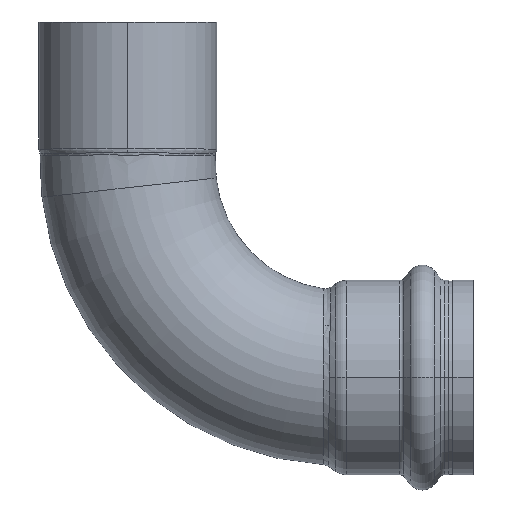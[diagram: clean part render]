
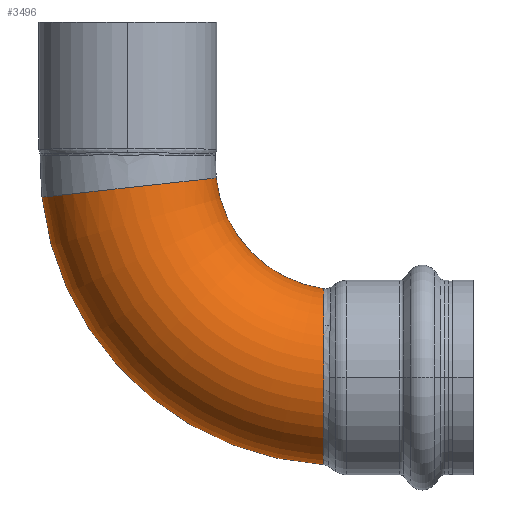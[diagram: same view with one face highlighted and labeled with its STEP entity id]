
A CAD part, top view. The second image highlights one B-rep face of the part: STEP entity #3496.
In plain terms, the highlighted toroidal (fillet/blend) face has major radius 42 mm and minor radius 17.25 mm.
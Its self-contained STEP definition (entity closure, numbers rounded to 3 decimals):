
#51 = AXIS2_PLACEMENT_3D ( 'NONE', #2447, #2440, #2423 ) ;
#109 = CARTESIAN_POINT ( 'NONE',  ( 38.582, 13.703, 10.763 ) ) ;
#117 = DIRECTION ( 'NONE',  ( -0.11, 0.994, 0. ) ) ;
#133 = CIRCLE ( 'NONE', #2634, 17.25 ) ;
#260 = CARTESIAN_POINT ( 'NONE',  ( 38.526, -12.992, 11.227 ) ) ;
#272 = CARTESIAN_POINT ( 'NONE',  ( 38.547, -2.523, 17.049 ) ) ;
#286 = CARTESIAN_POINT ( 'NONE',  ( 38.572, 8.535, 15.094 ) ) ;
#450 = CARTESIAN_POINT ( 'NONE',  ( 38.584, 14.696, 9.377 ) ) ;
#576 = EDGE_LOOP ( 'NONE', ( #2547, #2928, #1266, #1839, #3525 ) ) ;
#592 = DIRECTION ( 'NONE',  ( 0., 0., -1. ) ) ;
#613 = CARTESIAN_POINT ( 'NONE',  ( 38.519, -17.092, 1.588 ) ) ;
#626 = CARTESIAN_POINT ( 'NONE',  ( 38.528, -12.185, 12.105 ) ) ;
#642 = CARTESIAN_POINT ( 'NONE',  ( 38.55, -1.344, 17.191 ) ) ;
#660 = CARTESIAN_POINT ( 'NONE',  ( 38.574, 9.559, 14.483 ) ) ;
#662 = VERTEX_POINT ( 'NONE', #1633 ) ;
#841 = CARTESIAN_POINT ( 'NONE',  ( 38.585, 15.233, 8.498 ) ) ;
#842 = VERTEX_POINT ( 'NONE', #3385 ) ;
#865 = AXIS2_PLACEMENT_3D ( 'NONE', #3064, #3527, #3671 ) ;
#980 = CARTESIAN_POINT ( 'NONE',  ( 38.52, -16.714, 3.918 ) ) ;
#996 = CARTESIAN_POINT ( 'NONE',  ( 38.53, -11.037, 13.185 ) ) ;
#1012 = CARTESIAN_POINT ( 'NONE',  ( 38.554, 0.618, 17.261 ) ) ;
#1022 = CARTESIAN_POINT ( 'NONE',  ( 38.576, 10.211, 14.036 ) ) ;
#1049 = AXIS2_PLACEMENT_3D ( 'NONE', #1300, #592, #3417 ) ;
#1170 = CARTESIAN_POINT ( 'NONE',  ( 38.519, -17.148, 0. ) ) ;
#1191 = CARTESIAN_POINT ( 'NONE',  ( 38.586, 16.192, 6.671 ) ) ;
#1266 = ORIENTED_EDGE ( 'NONE', *, *, #3277, .T. ) ;
#1281 = EDGE_CURVE ( 'NONE', #2054, #1785, #1907, .T. ) ;
#1300 = CARTESIAN_POINT ( 'NONE',  ( 42., 42., 0. ) ) ;
#1315 = CARTESIAN_POINT ( 'NONE',  ( 38.52, -16.275, 5.427 ) ) ;
#1327 = CARTESIAN_POINT ( 'NONE',  ( 38.533, -9.46, 14.353 ) ) ;
#1339 = CARTESIAN_POINT ( 'NONE',  ( 38.558, 2.187, 17.134 ) ) ;
#1500 = CARTESIAN_POINT ( 'NONE',  ( 38.576, 10.211, 14.036 ) ) ;
#1515 = CARTESIAN_POINT ( 'NONE',  ( 38.587, 17.158, 3.404 ) ) ;
#1565 = EDGE_CURVE ( 'NONE', #662, #1910, #3552, .T. ) ;
#1575 = CARTESIAN_POINT ( 'NONE',  ( 17.399, 39.285, 0. ) ) ;
#1620 = CARTESIAN_POINT ( 'NONE',  ( 38.521, -15.862, 6.541 ) ) ;
#1632 = CARTESIAN_POINT ( 'NONE',  ( 38.535, -8.452, 14.976 ) ) ;
#1633 = CARTESIAN_POINT ( 'NONE',  ( 38.587, 17.486, 0. ) ) ;
#1646 = CARTESIAN_POINT ( 'NONE',  ( 38.56, 3.365, 16.953 ) ) ;
#1785 = VERTEX_POINT ( 'NONE', #3122 ) ;
#1791 = CARTESIAN_POINT ( 'NONE',  ( 38.578, 11.306, 13.209 ) ) ;
#1803 = CARTESIAN_POINT ( 'NONE',  ( 38.587, 17.446, 1.361 ) ) ;
#1839 = ORIENTED_EDGE ( 'NONE', *, *, #1565, .T. ) ;
#1907 = CIRCLE ( 'NONE', #865, 59.25 ) ;
#1910 = VERTEX_POINT ( 'NONE', #1575 ) ;
#1911 = CARTESIAN_POINT ( 'NONE',  ( 38.522, -15.019, 8.331 ) ) ;
#1926 = CARTESIAN_POINT ( 'NONE',  ( 38.539, -6.338, 16.072 ) ) ;
#1934 = CARTESIAN_POINT ( 'NONE',  ( 38.565, 5.283, 16.49 ) ) ;
#2032 = B_SPLINE_CURVE_WITH_KNOTS ( 'NONE', 3,
 ( #1500, #3581, #1791, #3840, #2082, #109, #2419, #450, #2764, #841, #3053, #1191, #3329, #1515, #3591, #1803, #3859, #2097 ),
 .UNSPECIFIED., .F., .F.,
 ( 4, 2, 2, 2, 2, 2, 2, 2, 4 ),
 ( 0.05, 0.053, 0.055, 0.057, 0.058, 0.059, 0.063, 0.065, 0.067 ),
 .UNSPECIFIED. ) ;
#2054 = VERTEX_POINT ( 'NONE', #1170 ) ;
#2082 = CARTESIAN_POINT ( 'NONE',  ( 38.581, 12.808, 11.792 ) ) ;
#2089 = CARTESIAN_POINT ( 'NONE',  ( 0.253, 37.392, 0. ) ) ;
#2097 = CARTESIAN_POINT ( 'NONE',  ( 38.587, 17.486, 0. ) ) ;
#2160 = EDGE_CURVE ( 'NONE', #1785, #1910, #133, .T. ) ;
#2224 = CARTESIAN_POINT ( 'NONE',  ( 38.525, -13.744, 10.31 ) ) ;
#2236 = CARTESIAN_POINT ( 'NONE',  ( 38.546, -2.916, 16.983 ) ) ;
#2249 = CARTESIAN_POINT ( 'NONE',  ( 38.57, 7.481, 15.644 ) ) ;
#2419 = CARTESIAN_POINT ( 'NONE',  ( 38.583, 14.119, 10.224 ) ) ;
#2423 = DIRECTION ( 'NONE',  ( -1., 0., 0. ) ) ;
#2430 = DIRECTION ( 'NONE',  ( -0.994, -0.11, 0. ) ) ;
#2440 = DIRECTION ( 'NONE',  ( 0., 0., -1. ) ) ;
#2447 = CARTESIAN_POINT ( 'NONE',  ( 42., 42., 0. ) ) ;
#2544 = TOROIDAL_SURFACE ( 'NONE', #1049, 42., 17.25 ) ;
#2547 = ORIENTED_EDGE ( 'NONE', *, *, #1281, .F. ) ;
#2573 = CARTESIAN_POINT ( 'NONE',  ( 38.527, -12.729, 11.527 ) ) ;
#2589 = CARTESIAN_POINT ( 'NONE',  ( 38.549, -1.737, 17.153 ) ) ;
#2601 = CARTESIAN_POINT ( 'NONE',  ( 38.573, 8.882, 14.898 ) ) ;
#2634 = AXIS2_PLACEMENT_3D ( 'NONE', #2089, #117, #2430 ) ;
#2764 = CARTESIAN_POINT ( 'NONE',  ( 38.584, 14.88, 9.088 ) ) ;
#2879 = CARTESIAN_POINT ( 'NONE',  ( 38.519, -16.876, 3.15 ) ) ;
#2895 = CARTESIAN_POINT ( 'NONE',  ( 38.528, -11.904, 12.383 ) ) ;
#2906 = CARTESIAN_POINT ( 'NONE',  ( 38.552, -0.166, 17.265 ) ) ;
#2917 = CARTESIAN_POINT ( 'NONE',  ( 38.575, 9.889, 14.265 ) ) ;
#2928 = ORIENTED_EDGE ( 'NONE', *, *, #3924, .T. ) ;
#2935 = B_SPLINE_CURVE_WITH_KNOTS ( 'NONE', 3,
 ( #3679, #3954, #613, #2879, #980, #3164, #1315, #3425, #1620, #3694, #1911, #3967, #2224, #260, #2573, #626, #2895, #996, #3171, #1327, #3441, #1632, #3700, #1926, #3978, #2236, #272, #2589, #642, #2906, #1012, #3185, #1339, #3451, #1646, #3708, #1934, #3994, #2249, #286, #2601, #660, #2917, #1022 ),
 .UNSPECIFIED., .F., .F.,
 ( 4, 2, 2, 2, 2, 2, 2, 2, 2, 2, 2, 2, 2, 2, 2, 2, 2, 2, 2, 2, 2, 4 ),
 ( 0.012, 0.015, 0.017, 0.018, 0.019, 0.022, 0.024, 0.025, 0.027, 0.029, 0.03, 0.031, 0.036, 0.037, 0.039, 0.041, 0.042, 0.043, 0.046, 0.048, 0.049, 0.05 ),
 .UNSPECIFIED. ) ;
#3053 = CARTESIAN_POINT ( 'NONE',  ( 38.585, 15.401, 8.196 ) ) ;
#3064 = CARTESIAN_POINT ( 'NONE',  ( 42., 42., 0. ) ) ;
#3122 = CARTESIAN_POINT ( 'NONE',  ( -16.892, 35.5, 0. ) ) ;
#3152 = FACE_OUTER_BOUND ( 'NONE', #576, .T. ) ;
#3164 = CARTESIAN_POINT ( 'NONE',  ( 38.52, -16.395, 5.052 ) ) ;
#3171 = CARTESIAN_POINT ( 'NONE',  ( 38.531, -10.426, 13.677 ) ) ;
#3185 = CARTESIAN_POINT ( 'NONE',  ( 38.557, 1.795, 17.176 ) ) ;
#3277 = EDGE_CURVE ( 'NONE', #842, #662, #2032, .T. ) ;
#3329 = CARTESIAN_POINT ( 'NONE',  ( 38.586, 16.67, 5.397 ) ) ;
#3385 = CARTESIAN_POINT ( 'NONE',  ( 38.576, 10.211, 14.036 ) ) ;
#3417 = DIRECTION ( 'NONE',  ( -1., 0., 0. ) ) ;
#3425 = CARTESIAN_POINT ( 'NONE',  ( 38.521, -16.009, 6.171 ) ) ;
#3441 = CARTESIAN_POINT ( 'NONE',  ( 38.534, -9.129, 14.568 ) ) ;
#3451 = CARTESIAN_POINT ( 'NONE',  ( 38.56, 2.972, 17.022 ) ) ;
#3496 = ADVANCED_FACE ( 'NONE', ( #3152 ), #2544, .T. ) ;
#3525 = ORIENTED_EDGE ( 'NONE', *, *, #2160, .F. ) ;
#3527 = DIRECTION ( 'NONE',  ( 0., 0., -1. ) ) ;
#3552 = CIRCLE ( 'NONE', #51, 24.75 ) ;
#3581 = CARTESIAN_POINT ( 'NONE',  ( 38.577, 10.771, 13.639 ) ) ;
#3591 = CARTESIAN_POINT ( 'NONE',  ( 38.587, 17.282, 2.722 ) ) ;
#3671 = DIRECTION ( 'NONE',  ( -1., 0., 0. ) ) ;
#3679 = CARTESIAN_POINT ( 'NONE',  ( 38.519, -17.148, 0. ) ) ;
#3694 = CARTESIAN_POINT ( 'NONE',  ( 38.522, -15.384, 7.633 ) ) ;
#3700 = CARTESIAN_POINT ( 'NONE',  ( 38.536, -8.103, 15.169 ) ) ;
#3708 = CARTESIAN_POINT ( 'NONE',  ( 38.563, 4.527, 16.706 ) ) ;
#3840 = CARTESIAN_POINT ( 'NONE',  ( 38.58, 12.329, 12.282 ) ) ;
#3859 = CARTESIAN_POINT ( 'NONE',  ( 38.587, 17.486, 0.68 ) ) ;
#3924 = EDGE_CURVE ( 'NONE', #2054, #842, #2935, .T. ) ;
#3954 = CARTESIAN_POINT ( 'NONE',  ( 38.519, -17.148, 0.789 ) ) ;
#3967 = CARTESIAN_POINT ( 'NONE',  ( 38.524, -14.199, 9.67 ) ) ;
#3978 = CARTESIAN_POINT ( 'NONE',  ( 38.542, -4.856, 16.59 ) ) ;
#3994 = CARTESIAN_POINT ( 'NONE',  ( 38.568, 6.76, 15.959 ) ) ;
